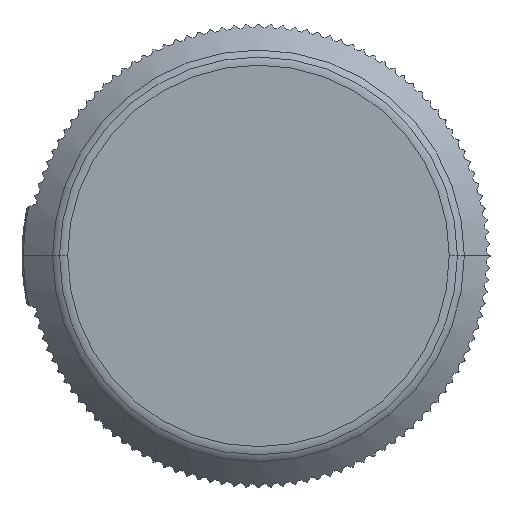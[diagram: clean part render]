
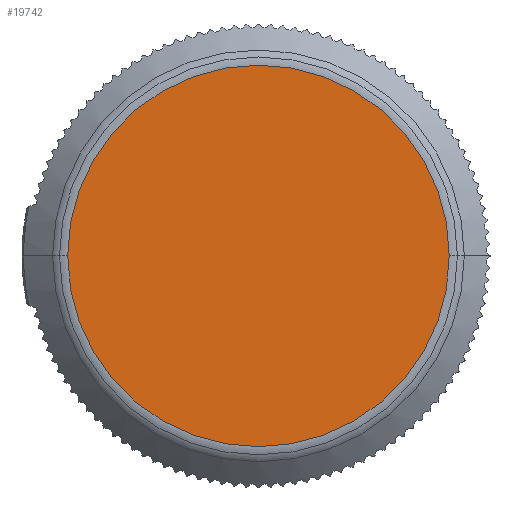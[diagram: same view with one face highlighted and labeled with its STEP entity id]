
A CAD part, top view. The second image highlights one B-rep face of the part: STEP entity #19742.
In plain terms, the highlighted planar face has unit normal (0, 0, 1).
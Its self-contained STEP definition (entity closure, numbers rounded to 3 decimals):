
#8376=CARTESIAN_POINT('',(0.,0.,13.));
#8377=DIRECTION('',(0.,0.,1.));
#8378=DIRECTION('',(-1.,0.,0.));
#8379=AXIS2_PLACEMENT_3D('',#8376,#8377,#8378);
#8381=CARTESIAN_POINT('',(0.,0.,13.));
#8382=DIRECTION('',(0.,0.,1.));
#8383=DIRECTION('',(1.,0.,0.));
#8384=AXIS2_PLACEMENT_3D('',#8381,#8382,#8383);
#12798=CARTESIAN_POINT('',(-17.922,0.,13.));
#12800=VERTEX_POINT('',#12798);
#12804=CARTESIAN_POINT('',(17.922,0.,13.));
#12805=VERTEX_POINT('',#12804);
#19732=CARTESIAN_POINT('',(0.,18.75,13.));
#19733=DIRECTION('',(0.,0.,-1.));
#19734=DIRECTION('',(-1.,0.,0.));
#19735=AXIS2_PLACEMENT_3D('',#19732,#19733,#19734);
#19736=PLANE('',#19735);
#19737=ORIENTED_EDGE('',*,*,#19722,.F.);
#19739=ORIENTED_EDGE('',*,*,#19738,.F.);
#19740=EDGE_LOOP('',(#19737,#19739));
#19741=FACE_OUTER_BOUND('',#19740,.F.);
#19742=ADVANCED_FACE('',(#19741),#19736,.F.);
#8380=CIRCLE('',#8379,17.922);
#8385=CIRCLE('',#8384,17.922);
#19722=EDGE_CURVE('',#12800,#12805,#8380,.T.);
#19738=EDGE_CURVE('',#12805,#12800,#8385,.T.);
